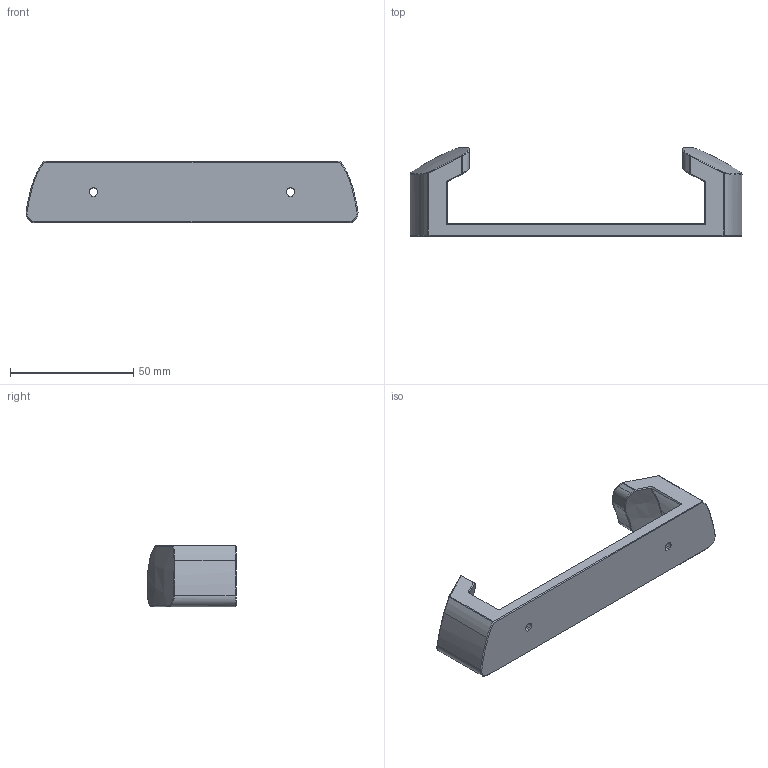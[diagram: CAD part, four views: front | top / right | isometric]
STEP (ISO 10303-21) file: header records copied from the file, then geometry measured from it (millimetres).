
FILE_DESCRIPTION (( 'STEP AP214' ), '1' );
FILE_NAME ('Topfdeckelhalterung 12cm.STEP', '2025-06-14T11:10:47', ( '' ), ( '' ), 'SwSTEP 2.0', 'SolidWorks 2012', '' );
FILE_SCHEMA (( 'AUTOMOTIVE_DESIGN' ));
Length unit declared in the file: millimetre
Products named in the file (1): Topfdeckelhalterung 12cm
Bounding box: 134.73 x 35.8 x 25 mm (x, y, z)
Volume: 28584.9 mm3; surface area: 12285 mm2
Topology: 1 solids, 1 shells, 132 faces, 320 edges, 188 vertices
Faces by surface type: bspline 62, plane 27, cylinder 23, cone 10, torus 10
Entity records: 6502 total; most frequent: CARTESIAN_POINT 3929, ORIENTED_EDGE 636, DIRECTION 366, EDGE_CURVE 318, VERTEX_POINT 188, B_SPLINE_CURVE_WITH_KNOTS 164, AXIS2_PLACEMENT_3D 147, EDGE_LOOP 136
